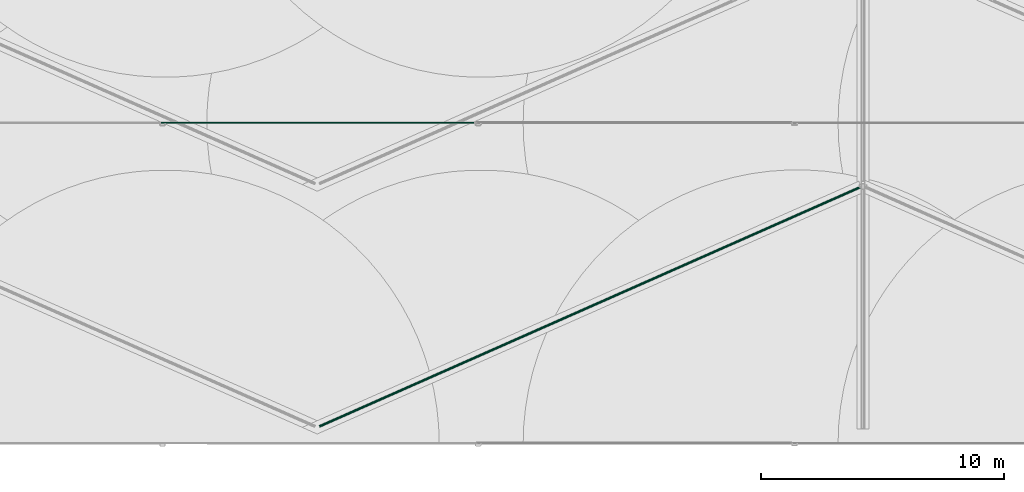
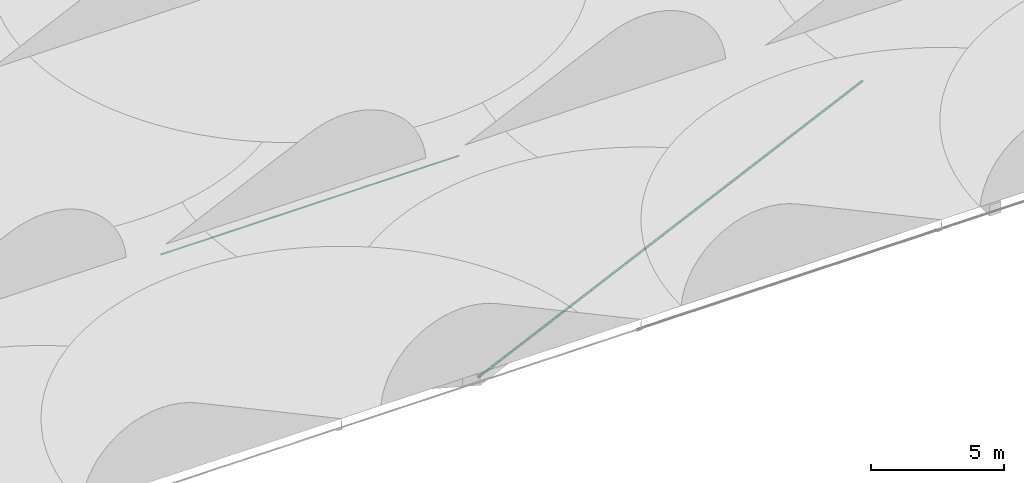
# One storey, part 25 of 166: 2 flow segments.
"""IFC2X3 building model written with IfcOpenShell, lengths in metres."""

from ifc_helpers import new_model, entity, si_unit, converted_unit, direction, frame, frame_2d, origin, place, context, subcontext, project, spatial, circle, extrude, type_object, element, save


model = new_model("IFC2X3")

# Units and contexts
model_context = context("Model", 3, precision=1e-05, world=origin(), true_north=direction((6.123233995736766e-17, 1.0)))
body_context = subcontext(model_context, "Body", "Model", "MODEL_VIEW")
ifc_project = project(units=[si_unit("LENGTHUNIT", "METRE"), converted_unit("PLANEANGLEUNIT", "DEGREE", entity("IfcPlaneAngleMeasure", 0.017453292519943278), si_unit("PLANEANGLEUNIT", "RADIAN"), dimensions=[0, 0, 0, 0, 0, 0, 0]), si_unit("AREAUNIT", "SQUARE_METRE")], contexts=[model_context])

# Site, building, storey
site_placement = place(None, origin())
site = spatial("IfcSite", under=ifc_project, at=site_placement, Name="Default", CompositionType="ELEMENT")
building_placement = place(site_placement, origin())
building = spatial("IfcBuilding", under=site, at=building_placement, Name="CASA DE ACOLHIDA PARA IDOSOS", CompositionType="ELEMENT")
storey_placement = place(building_placement, frame((0.0, 0.0, -1.7499999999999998)))
storey = spatial("IfcBuildingStorey", under=building, at=storey_placement, Name="IMPLANTAÇÃO DRENAGEM", CompositionType="ELEMENT", Elevation=-1.7499999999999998)

# Flow segments
pipe_segment_type_1 = type_object("IfcPipeSegmentType", Name="Tipos de tubos:PLUV_Tubo PEAD Corrugado", PredefinedType="NOTDEFINED")
flow_segment_1_placement = place(storey_placement, origin())
element("IfcFlowSegment", 1, at=flow_segment_1_placement, inside=storey, type_object=pipe_segment_type_1, Name="Tipos de tubos:PLUV_Tubo PEAD Corrugado", ObjectType="Tipos de tubos:PLUV_Tubo PEAD Corrugado", context=body_context, shape_type="SweptSolid", body=[
    extrude(circle(Radius=0.05, at=frame_2d((9.903206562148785e-16, -4.38003462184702e-18), x_axis=(1.0, 0.0))), frame((22.968633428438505, -6.145057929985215, -0.7947900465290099), z_axis=(-0.9144899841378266, -0.4044849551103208, 0.00999950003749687), x_axis=(0.4045051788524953, -0.914535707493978, 0.0)), (0.0, 0.0, 1.0), 24.48022857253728),
])
pipe_segment_type_2 = type_object("IfcPipeSegmentType", Name="Tipos de tubos:AF_Tubo Marrom Soldável", PredefinedType="NOTDEFINED")
flow_segment_2_placement = place(storey_placement, origin())
element("IfcFlowSegment", 2, at=flow_segment_2_placement, inside=storey, type_object=pipe_segment_type_2, Name="Tipos de tubos:AF_Tubo Marrom Soldável", ObjectType="Tipos de tubos:AF_Tubo Marrom Soldável", context=body_context, shape_type="SweptSolid", body=[
    extrude(circle(Radius=0.025, at=frame_2d((0.0, -2.707167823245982e-16), x_axis=(1.0, 0.0))), frame((-5.958348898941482, -3.545057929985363, -0.19999999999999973), z_axis=(1.0, 0.0, 0.0), x_axis=(0.0, -1.0, 0.0)), (0.0, 0.0, 1.0), 12.9348),
])

save(model, "model.ifc")
